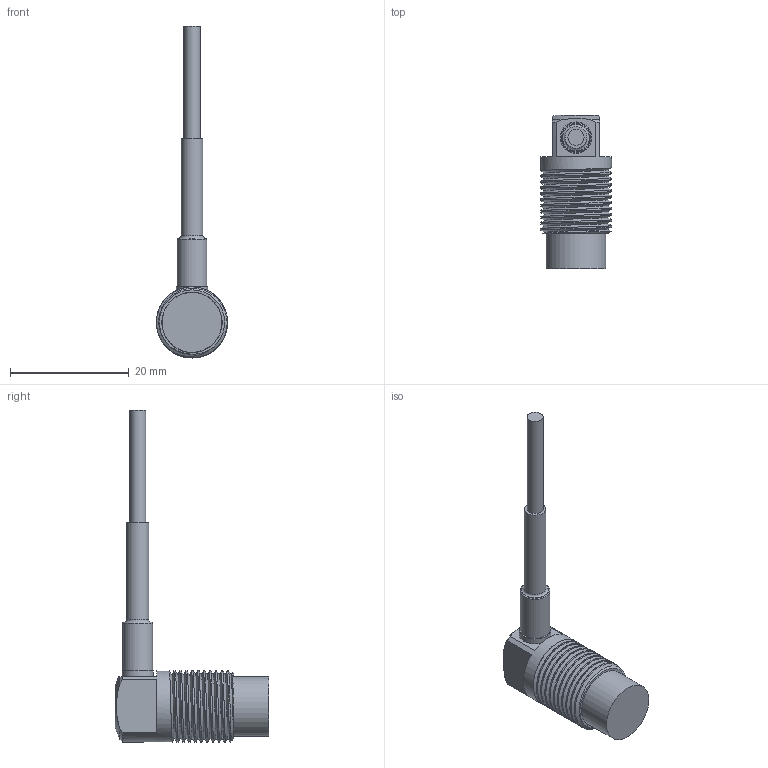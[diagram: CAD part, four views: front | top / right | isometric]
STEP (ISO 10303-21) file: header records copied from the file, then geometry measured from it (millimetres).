
FILE_DESCRIPTION( ( 'STEP AP214' ), '1' );
FILE_NAME( 'N:/Engineering/CAD_Solid/Wirbelstrom/Wirbelstromsensoren/T3/T3-G-KR.stp', '2013-04-26T07:47:06', ( ' ' ), ( ' ' ), 'XStep 1.0', ' ', ' ' );
FILE_SCHEMA( ( 'CONFIG_CONTROL_DESIGN) ( )' ) );
Length unit declared in the file: metre
Products named in the file (5): 1; 2; 3; 4; 5
Bounding box: 12 x 25.9 x 56 mm (x, y, z)
Surface area: 2227.2 mm2 (no closed solid volume)
Topology: 0 solids, 31 shells, 42 faces, 153 edges, 132 vertices
Faces by surface type: cylinder 18, plane 15, cone 5, bspline 2, torus 2
Full cylindrical faces by diameter (mm): 2.7 x1, 3.7 x1, 5 x1, 5.3 x1, 10.1 x1, 10.2 x1, 12 x11
Entity records: 3342 total; most frequent: CARTESIAN_POINT 2144, DIRECTION 196, ORIENTED_EDGE 108, EDGE_CURVE 108, VERTEX_POINT 108, AXIS2_PLACEMENT_3D 86, CIRCLE 52, FACE_BOUND 47
